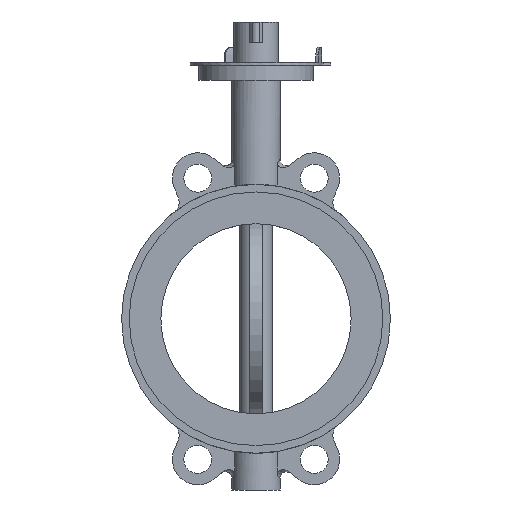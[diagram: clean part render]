
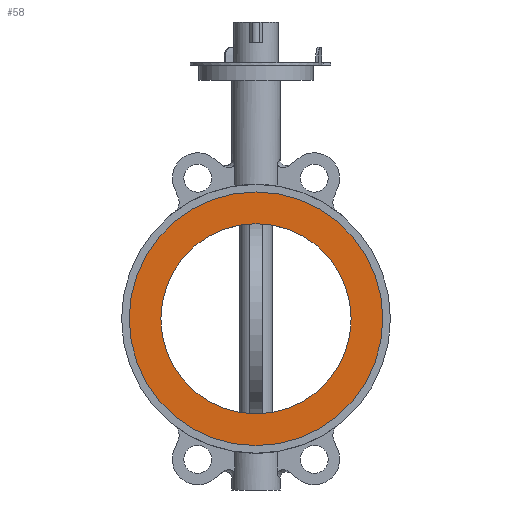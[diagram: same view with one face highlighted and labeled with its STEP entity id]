
A CAD part, left-side view. The second image highlights one B-rep face of the part: STEP entity #58.
In plain terms, the highlighted planar face has unit normal (-1, 0, 0).
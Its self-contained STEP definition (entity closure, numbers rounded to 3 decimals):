
#58=ADVANCED_FACE('',(#6799,#6801),#6803,.F.);
#6799=FACE_BOUND('',#6800,.T.);
#6800=EDGE_LOOP('',(#12580));
#6801=FACE_BOUND('',#6802,.T.);
#6802=EDGE_LOOP('',(#12581));
#6803=PLANE('',#6804);
#6804=AXIS2_PLACEMENT_3D('',#6805,#6806,#6807);
#6805=CARTESIAN_POINT('',(-28.,0.,0.));
#6806=DIRECTION('',(1.,0.,0.));
#6807=DIRECTION('',(0.,1.,0.));
#12580=ORIENTED_EDGE('',*,*,#16915,.T.);
#12581=ORIENTED_EDGE('',*,*,#16916,.T.);
#16915=EDGE_CURVE('',#19114,#19114,#19115,.F.);
#16916=EDGE_CURVE('',#19116,#19116,#19117,.T.);
#19114=VERTEX_POINT('',#22743);
#19115=CIRCLE('',#22744,100.);
#19116=VERTEX_POINT('',#22748);
#19117=CIRCLE('',#22749,75.);
#22743=CARTESIAN_POINT('',(-28.,100.,0.));
#22744=AXIS2_PLACEMENT_3D('',#22745,#22746,#22747);
#22745=CARTESIAN_POINT('',(-28.,0.,0.));
#22746=DIRECTION('',(1.,0.,0.));
#22747=DIRECTION('',(0.,1.,0.));
#22748=CARTESIAN_POINT('',(-28.,75.,0.));
#22749=AXIS2_PLACEMENT_3D('',#22750,#22751,#22752);
#22750=CARTESIAN_POINT('',(-28.,0.,0.));
#22751=DIRECTION('',(1.,0.,0.));
#22752=DIRECTION('',(0.,1.,0.));
